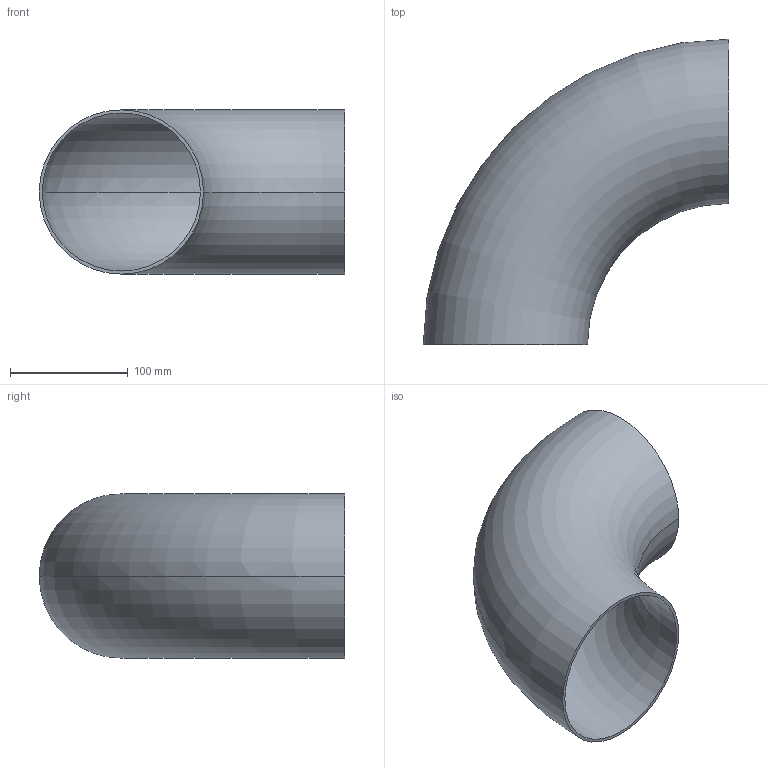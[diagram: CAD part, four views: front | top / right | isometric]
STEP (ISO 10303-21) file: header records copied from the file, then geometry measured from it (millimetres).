
FILE_DESCRIPTION (( 'STEP AP203' ), '1' );
FILE_NAME ('OT200-125-139_7x2_6_OSTP.step', '2020-12-16T02:46:11', ( '' ), ( '' ), 'SwSTEP 2.0', 'SolidWorks 2014', '' );
FILE_SCHEMA (( 'CONFIG_CONTROL_DESIGN' ));
Length unit declared in the file: millimetre
Products named in the file (1): OT200-125-139_7x2_6_OSTP
Bounding box: 259.85 x 259.85 x 139.7 mm (x, y, z)
Volume: 334221.3 mm3; surface area: 259333 mm2
Topology: 1 solids, 1 shells, 6 faces, 12 edges, 8 vertices
Faces by surface type: torus 4, plane 2
Entity records: 249 total; most frequent: DIRECTION 38, CARTESIAN_POINT 27, ORIENTED_EDGE 24, AXIS2_PLACEMENT_3D 19, EDGE_CURVE 12, CIRCLE 12, PERSON_AND_ORGANIZATION 8, VERTEX_POINT 8
